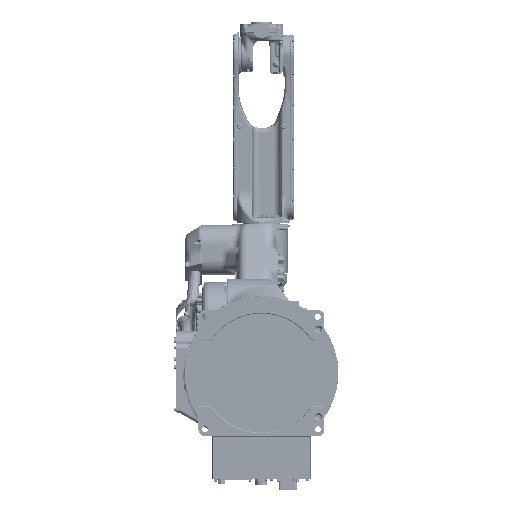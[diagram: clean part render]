
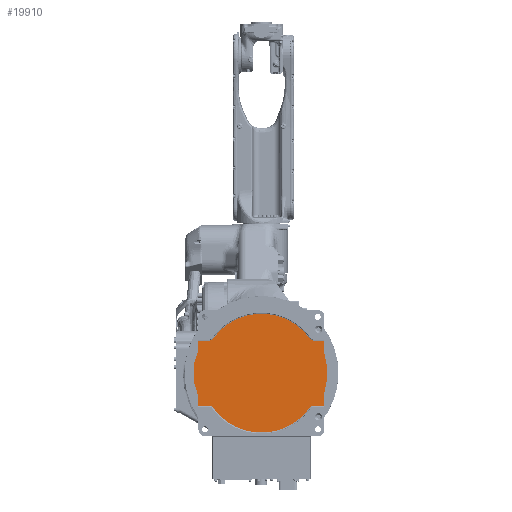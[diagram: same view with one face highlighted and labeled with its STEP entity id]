
A CAD part, front view. The second image highlights one B-rep face of the part: STEP entity #19910.
In plain terms, the highlighted planar face has unit normal (0, -1, 0).
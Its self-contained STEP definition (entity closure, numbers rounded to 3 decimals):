
#1482=DIRECTION('',(1.,0.,0.));
#1483=VECTOR('',#1482,32.581);
#1484=CARTESIAN_POINT('',(154.919,5.,97.));
#1485=LINE('',#1484,#1483);
#1486=DIRECTION('',(-1.,0.,0.));
#1487=VECTOR('',#1486,32.581);
#1488=CARTESIAN_POINT('',(187.5,5.,-97.));
#1489=LINE('',#1488,#1487);
#1490=CARTESIAN_POINT('',(154.919,5.,-110.));
#1491=DIRECTION('',(0.,-1.,0.));
#1492=DIRECTION('',(0.,0.,1.));
#1493=AXIS2_PLACEMENT_3D('',#1490,#1491,#1492);
#1495=CARTESIAN_POINT('',(0.,5.,0.));
#1496=DIRECTION('',(0.,1.,0.));
#1497=DIRECTION('',(0.815,0.,-0.579));
#1498=AXIS2_PLACEMENT_3D('',#1495,#1496,#1497);
#1500=CARTESIAN_POINT('',(-154.919,5.,-110.));
#1501=DIRECTION('',(0.,-1.,0.));
#1502=DIRECTION('',(0.815,0.,0.579));
#1503=AXIS2_PLACEMENT_3D('',#1500,#1501,#1502);
#1505=DIRECTION('',(-1.,0.,0.));
#1506=VECTOR('',#1505,32.581);
#1507=CARTESIAN_POINT('',(-154.919,5.,-97.));
#1508=LINE('',#1507,#1506);
#1509=DIRECTION('',(1.,0.,0.));
#1510=VECTOR('',#1509,32.581);
#1511=CARTESIAN_POINT('',(-187.5,5.,97.));
#1512=LINE('',#1511,#1510);
#1513=CARTESIAN_POINT('',(-154.919,5.,110.));
#1514=DIRECTION('',(0.,-1.,0.));
#1515=DIRECTION('',(0.,0.,-1.));
#1516=AXIS2_PLACEMENT_3D('',#1513,#1514,#1515);
#1518=CARTESIAN_POINT('',(0.,5.,0.));
#1519=DIRECTION('',(0.,1.,0.));
#1520=DIRECTION('',(-0.815,0.,0.579));
#1521=AXIS2_PLACEMENT_3D('',#1518,#1519,#1520);
#1523=CARTESIAN_POINT('',(154.919,5.,110.));
#1524=DIRECTION('',(0.,-1.,0.));
#1525=DIRECTION('',(-0.815,0.,-0.579));
#1526=AXIS2_PLACEMENT_3D('',#1523,#1524,#1525);
#1570=DIRECTION('',(0.,0.,1.));
#1571=VECTOR('',#1570,23.948);
#1572=CARTESIAN_POINT('',(-187.5,5.,73.052));
#1573=LINE('',#1572,#1571);
#1591=CARTESIAN_POINT('',(-207.5,5.,73.052));
#1592=DIRECTION('',(0.,1.,0.));
#1593=DIRECTION('',(1.,0.,0.));
#1594=AXIS2_PLACEMENT_3D('',#1591,#1592,#1593);
#1636=DIRECTION('',(-0.298,0.,-0.954));
#1637=VECTOR('',#1636,38.855);
#1638=CARTESIAN_POINT('',(-188.41,5.,67.087));
#1639=LINE('',#1638,#1637);
#1678=DIRECTION('',(0.,0.,-1.));
#1679=VECTOR('',#1678,60.);
#1680=CARTESIAN_POINT('',(-200.,5.,30.));
#1681=LINE('',#1680,#1679);
#1724=CARTESIAN_POINT('',(-207.5,5.,-73.052));
#1725=DIRECTION('',(0.,1.,0.));
#1726=DIRECTION('',(0.954,0.,0.298));
#1727=AXIS2_PLACEMENT_3D('',#1724,#1725,#1726);
#1737=DIRECTION('',(0.298,0.,-0.954));
#1738=VECTOR('',#1737,38.855);
#1739=CARTESIAN_POINT('',(-200.,5.,-30.));
#1740=LINE('',#1739,#1738);
#1745=DIRECTION('',(0.,0.,1.));
#1746=VECTOR('',#1745,23.948);
#1747=CARTESIAN_POINT('',(-187.5,5.,-97.));
#1748=LINE('',#1747,#1746);
#2014=CARTESIAN_POINT('',(0.,5.,0.));
#2015=DIRECTION('',(0.,-1.,0.));
#2016=DIRECTION('',(0.963,0.,-0.269));
#2017=AXIS2_PLACEMENT_3D('',#2014,#2015,#2016);
#2030=CARTESIAN_POINT('',(207.5,5.,58.028));
#2031=DIRECTION('',(0.,1.,0.));
#2032=DIRECTION('',(-0.963,0.,-0.269));
#2033=AXIS2_PLACEMENT_3D('',#2030,#2031,#2032);
#2035=DIRECTION('',(0.,0.,1.));
#2036=VECTOR('',#2035,38.972);
#2037=CARTESIAN_POINT('',(187.5,5.,58.028));
#2038=LINE('',#2037,#2036);
#2598=CARTESIAN_POINT('',(207.5,5.,-58.028));
#2599=DIRECTION('',(0.,1.,0.));
#2600=DIRECTION('',(-1.,0.,0.));
#2601=AXIS2_PLACEMENT_3D('',#2598,#2599,#2600);
#2637=DIRECTION('',(0.,0.,1.));
#2638=VECTOR('',#2637,38.972);
#2639=CARTESIAN_POINT('',(187.5,5.,-97.));
#2640=LINE('',#2639,#2638);
#15242=CARTESIAN_POINT('',(-200.,5.,30.));
#15243=CARTESIAN_POINT('',(-200.,5.,-30.));
#15244=VERTEX_POINT('',#15242);
#15245=VERTEX_POINT('',#15243);
#15266=CARTESIAN_POINT('',(-154.919,5.,-97.));
#15267=CARTESIAN_POINT('',(-187.5,5.,-97.));
#15268=VERTEX_POINT('',#15266);
#15269=VERTEX_POINT('',#15267);
#15274=CARTESIAN_POINT('',(-144.32,5.,-102.474));
#15275=VERTEX_POINT('',#15274);
#15278=CARTESIAN_POINT('',(144.32,5.,-102.474));
#15279=VERTEX_POINT('',#15278);
#15282=CARTESIAN_POINT('',(154.919,5.,-97.));
#15283=VERTEX_POINT('',#15282);
#15288=CARTESIAN_POINT('',(187.5,5.,-97.));
#15289=VERTEX_POINT('',#15288);
#15290=CARTESIAN_POINT('',(154.919,5.,97.));
#15291=CARTESIAN_POINT('',(187.5,5.,97.));
#15292=VERTEX_POINT('',#15290);
#15293=VERTEX_POINT('',#15291);
#15298=CARTESIAN_POINT('',(144.32,5.,102.474));
#15299=VERTEX_POINT('',#15298);
#15302=CARTESIAN_POINT('',(-144.32,5.,102.474));
#15303=VERTEX_POINT('',#15302);
#15306=CARTESIAN_POINT('',(-154.919,5.,97.));
#15307=VERTEX_POINT('',#15306);
#15312=CARTESIAN_POINT('',(-187.5,5.,97.));
#15313=VERTEX_POINT('',#15312);
#15340=CARTESIAN_POINT('',(-187.5,5.,73.052));
#15341=CARTESIAN_POINT('',(-188.41,5.,67.087));
#15342=VERTEX_POINT('',#15340);
#15343=VERTEX_POINT('',#15341);
#15344=CARTESIAN_POINT('',(-188.41,5.,-67.087));
#15345=CARTESIAN_POINT('',(-187.5,5.,-73.052));
#15346=VERTEX_POINT('',#15344);
#15347=VERTEX_POINT('',#15345);
#15416=CARTESIAN_POINT('',(187.5,5.,58.028));
#15418=VERTEX_POINT('',#15416);
#15420=CARTESIAN_POINT('',(188.239,5.,52.642));
#15422=VERTEX_POINT('',#15420);
#15425=CARTESIAN_POINT('',(188.239,5.,-52.642));
#15427=VERTEX_POINT('',#15425);
#15429=CARTESIAN_POINT('',(187.5,5.,-58.028));
#15431=VERTEX_POINT('',#15429);
#19860=CARTESIAN_POINT('',(0.,5.,0.));
#19861=DIRECTION('',(0.,1.,0.));
#19862=DIRECTION('',(-1.,0.,0.));
#19863=AXIS2_PLACEMENT_3D('',#19860,#19861,#19862);
#19864=PLANE('',#19863);
#19866=ORIENTED_EDGE('',*,*,#19865,.T.);
#19868=ORIENTED_EDGE('',*,*,#19867,.F.);
#19870=ORIENTED_EDGE('',*,*,#19869,.F.);
#19872=ORIENTED_EDGE('',*,*,#19871,.F.);
#19874=ORIENTED_EDGE('',*,*,#19873,.F.);
#19876=ORIENTED_EDGE('',*,*,#19875,.F.);
#19878=ORIENTED_EDGE('',*,*,#19877,.T.);
#19880=ORIENTED_EDGE('',*,*,#19879,.T.);
#19882=ORIENTED_EDGE('',*,*,#19881,.T.);
#19883=ORIENTED_EDGE('',*,*,#19850,.T.);
#19885=ORIENTED_EDGE('',*,*,#19884,.T.);
#19887=ORIENTED_EDGE('',*,*,#19886,.T.);
#19889=ORIENTED_EDGE('',*,*,#19888,.F.);
#19891=ORIENTED_EDGE('',*,*,#19890,.F.);
#19893=ORIENTED_EDGE('',*,*,#19892,.F.);
#19895=ORIENTED_EDGE('',*,*,#19894,.F.);
#19897=ORIENTED_EDGE('',*,*,#19896,.F.);
#19899=ORIENTED_EDGE('',*,*,#19898,.T.);
#19901=ORIENTED_EDGE('',*,*,#19900,.T.);
#19903=ORIENTED_EDGE('',*,*,#19902,.T.);
#19905=ORIENTED_EDGE('',*,*,#19904,.T.);
#19907=ORIENTED_EDGE('',*,*,#19906,.T.);
#19908=EDGE_LOOP('',(#19866,#19868,#19870,#19872,#19874,#19876,#19878,#19880,
#19882,#19883,#19885,#19887,#19889,#19891,#19893,#19895,#19897,#19899,#19901,
#19903,#19905,#19907));
#19909=FACE_OUTER_BOUND('',#19908,.F.);
#19910=ADVANCED_FACE('',(#19909),#19864,.F.);
#1494=CIRCLE('',#1493,13.);
#1499=CIRCLE('',#1498,177.);
#1504=CIRCLE('',#1503,13.);
#1517=CIRCLE('',#1516,13.);
#1522=CIRCLE('',#1521,177.);
#1527=CIRCLE('',#1526,13.);
#1595=CIRCLE('',#1594,20.);
#1728=CIRCLE('',#1727,20.);
#2018=CIRCLE('',#2017,195.461);
#2034=CIRCLE('',#2033,20.);
#2602=CIRCLE('',#2601,20.);
#19850=EDGE_CURVE('',#15275,#15268,#1504,.T.);
#19865=EDGE_CURVE('',#15292,#15293,#1485,.T.);
#19867=EDGE_CURVE('',#15418,#15293,#2038,.T.);
#19869=EDGE_CURVE('',#15422,#15418,#2034,.T.);
#19871=EDGE_CURVE('',#15427,#15422,#2018,.T.);
#19873=EDGE_CURVE('',#15431,#15427,#2602,.T.);
#19875=EDGE_CURVE('',#15289,#15431,#2640,.T.);
#19877=EDGE_CURVE('',#15289,#15283,#1489,.T.);
#19879=EDGE_CURVE('',#15283,#15279,#1494,.T.);
#19881=EDGE_CURVE('',#15279,#15275,#1499,.T.);
#19884=EDGE_CURVE('',#15268,#15269,#1508,.T.);
#19886=EDGE_CURVE('',#15269,#15347,#1748,.T.);
#19888=EDGE_CURVE('',#15346,#15347,#1728,.T.);
#19890=EDGE_CURVE('',#15245,#15346,#1740,.T.);
#19892=EDGE_CURVE('',#15244,#15245,#1681,.T.);
#19894=EDGE_CURVE('',#15343,#15244,#1639,.T.);
#19896=EDGE_CURVE('',#15342,#15343,#1595,.T.);
#19898=EDGE_CURVE('',#15342,#15313,#1573,.T.);
#19900=EDGE_CURVE('',#15313,#15307,#1512,.T.);
#19902=EDGE_CURVE('',#15307,#15303,#1517,.T.);
#19904=EDGE_CURVE('',#15303,#15299,#1522,.T.);
#19906=EDGE_CURVE('',#15299,#15292,#1527,.T.);
